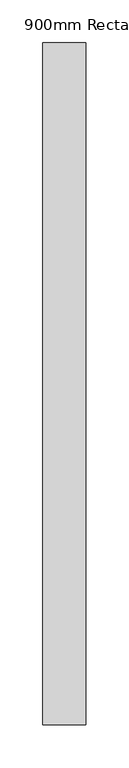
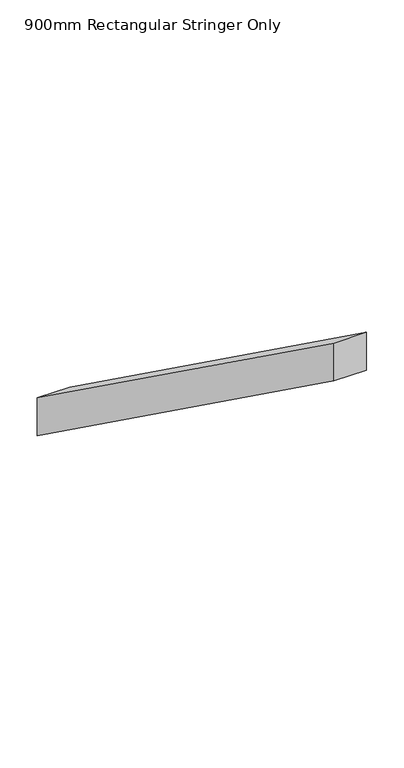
"""IFC4 building model written with IfcOpenShell, lengths in millimetres: railing geometry, 900mm Rectangular Stringer Only."""

from ifc_helpers import new_model, si_unit, frame, origin, place, context, project, spatial, polyline, outline, extrude, source, transform, mapped, element, save


def railing_900mm_rectangular_stringer_only_155df698(model_context):
    return source(origin(), model_context, "Body", "SweptSolid", [
        extrude(outline(polyline([(3644.9, -1652.7), (3644.9, -1714.2834666), (2850.0832, -1142.7834666), (2850.0832, -1081.2), (3644.9, -1652.7)])), frame((-2164.95, 0.0, 0.0), z_axis=(1.0, 0.0, 0.0), x_axis=(0.0, 1.0, 0.0)), (0.0, 0.0, 1.0), 50.0),
    ])


if __name__ == "__main__":
    model = new_model("IFC4")
    model_context = context("Model", 3, world=origin())
    ifc_project = project(units=[si_unit("LENGTHUNIT", "METRE", prefix="MILLI")], contexts=[model_context])
    site = spatial("IfcSite", under=ifc_project)
    building = spatial("IfcBuilding", under=site)
    placement = place(None, origin())
    railing_900mm_rectangular_stringer_only_shape = railing_900mm_rectangular_stringer_only_155df698(model_context)
    element("IfcRailing", 1, ObjectType="900mm Rectangular Stringer Only", at=placement, inside=building, context=model_context, shape_type="MappedRepresentation", body=[
        mapped(railing_900mm_rectangular_stringer_only_shape, transform((0.0, 0.0, 0.0), x_axis=(1.0, 0.0, 0.0), y_axis=(0.0, 1.0, 0.0), z_axis=(0.0, 0.0, 1.0))),
    ])
    save(model, "model.ifc")
